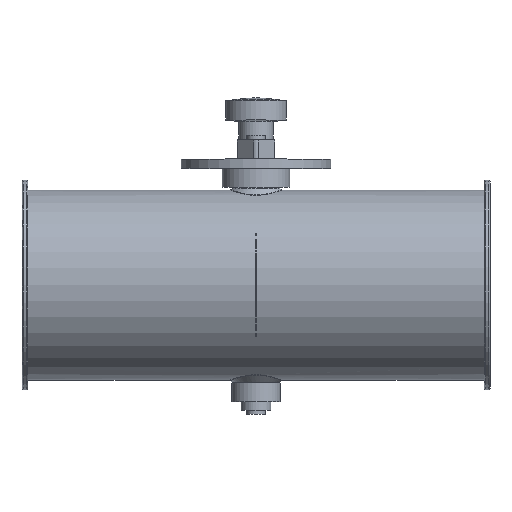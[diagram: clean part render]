
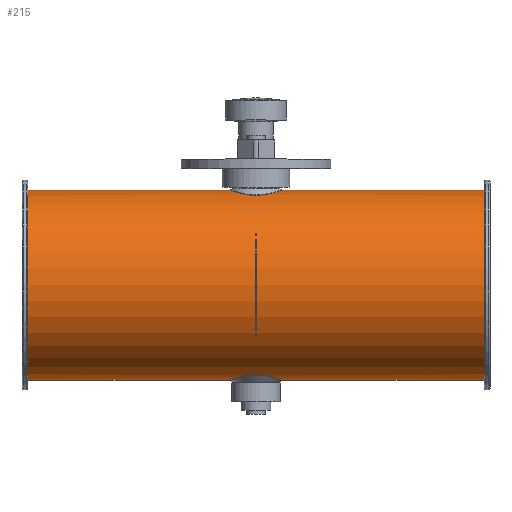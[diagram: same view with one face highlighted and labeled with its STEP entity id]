
A CAD part, top view. The second image highlights one B-rep face of the part: STEP entity #215.
In plain terms, the highlighted cylindrical face has radius 50.8 mm (diameter 101.6 mm), a full revolution.
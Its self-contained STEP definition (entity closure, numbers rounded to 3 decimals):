
#115=B_SPLINE_CURVE_WITH_KNOTS('',3,(#2017,#2018,#2019,#2020,#2021,#2022,
#2023,#2024,#2025,#2026,#2027,#2028,#2029,#2030,#2031,#2032,#2033,#2034,
#2035,#2036,#2037,#2038,#2039,#2040),.UNSPECIFIED.,.T.,.F.,(2,2,2,2,2,2,
2,2,2,2,2,2,2,2),(-0.063,0.,0.063,0.125,0.25,0.375,
0.438,0.5,0.625,0.75,0.875,0.938,1.,1.063),.UNSPECIFIED.);
#116=B_SPLINE_CURVE_WITH_KNOTS('',3,(#2042,#2043,#2044,#2045,#2046,#2047,
#2048,#2049,#2050,#2051,#2052,#2053,#2054,#2055,#2056,#2057,#2058,#2059,
#2060,#2061,#2062,#2063,#2064,#2065,#2066,#2067),.UNSPECIFIED.,.T.,.F.,(2,
2,2,2,2,2,2,2,2,2,2,2,2,2,2),(-0.062,0.,0.063,
0.125,0.25,0.375,0.438,0.5,
0.563,0.625,0.75,0.875,0.938,1.,1.063),.UNSPECIFIED.);
#149=CYLINDRICAL_SURFACE('',#1404,50.8);
#215=ADVANCED_FACE('',(#439,#440,#441,#442),#149,.T.);
#353=CIRCLE('',#1402,50.8);
#354=CIRCLE('',#1403,50.8);
#439=FACE_BOUND('',#615,.T.);
#440=FACE_BOUND('',#616,.T.);
#441=FACE_BOUND('',#617,.T.);
#442=FACE_BOUND('',#618,.T.);
#615=EDGE_LOOP('',(#833));
#616=EDGE_LOOP('',(#834));
#617=EDGE_LOOP('',(#835));
#618=EDGE_LOOP('',(#836));
#833=ORIENTED_EDGE('',*,*,#1191,.T.);
#834=ORIENTED_EDGE('',*,*,#1192,.T.);
#835=ORIENTED_EDGE('',*,*,#1193,.T.);
#836=ORIENTED_EDGE('',*,*,#1194,.F.);
#1069=VERTEX_POINT('',#2016);
#1070=VERTEX_POINT('',#2041);
#1071=VERTEX_POINT('',#2068);
#1072=VERTEX_POINT('',#2070);
#1191=EDGE_CURVE('',#1069,#1069,#353,.T.);
#1192=EDGE_CURVE('',#1070,#1070,#115,.T.);
#1193=EDGE_CURVE('',#1071,#1071,#116,.T.);
#1194=EDGE_CURVE('',#1072,#1072,#354,.T.);
#1402=AXIS2_PLACEMENT_3D('',#2015,#1616,#1617);
#1403=AXIS2_PLACEMENT_3D('',#2069,#1618,#1619);
#1404=AXIS2_PLACEMENT_3D('',#2071,#1620,#1621);
#1616=DIRECTION('',(1.,0.,0.));
#1617=DIRECTION('',(0.,0.,1.));
#1618=DIRECTION('',(1.,0.,0.));
#1619=DIRECTION('',(0.,0.,1.));
#1620=DIRECTION('',(1.,0.,0.));
#1621=DIRECTION('',(0.,0.,-1.));
#2015=CARTESIAN_POINT('',(-122.,-8.3,125.));
#2016=CARTESIAN_POINT('',(-122.,-8.3,175.8));
#2017=CARTESIAN_POINT('',(-0.641,-56.186,108.034));
#2018=CARTESIAN_POINT('',(-4.642,-56.512,108.986));
#2019=CARTESIAN_POINT('',(-6.468,-56.847,109.98));
#2020=CARTESIAN_POINT('',(-9.553,-57.571,112.56));
#2021=CARTESIAN_POINT('',(-10.827,-57.959,114.145));
#2022=CARTESIAN_POINT('',(-13.777,-58.917,119.411));
#2023=CARTESIAN_POINT('',(-14.546,-59.241,123.656));
#2024=CARTESIAN_POINT('',(-13.401,-58.819,131.681));
#2025=CARTESIAN_POINT('',(-11.513,-58.078,135.52));
#2026=CARTESIAN_POINT('',(-7.107,-56.98,139.59));
#2027=CARTESIAN_POINT('',(-5.35,-56.624,140.679));
#2028=CARTESIAN_POINT('',(-1.462,-56.217,141.883));
#2029=CARTESIAN_POINT('',(0.658,-56.187,141.964));
#2030=CARTESIAN_POINT('',(6.633,-56.676,140.537));
#2031=CARTESIAN_POINT('',(9.833,-57.636,137.623));
#2032=CARTESIAN_POINT('',(13.773,-58.916,130.604));
#2033=CARTESIAN_POINT('',(14.545,-59.241,126.368));
#2034=CARTESIAN_POINT('',(13.406,-58.821,118.329));
#2035=CARTESIAN_POINT('',(11.52,-58.081,114.494));
#2036=CARTESIAN_POINT('',(7.126,-56.984,110.424));
#2037=CARTESIAN_POINT('',(5.371,-56.627,109.329));
#2038=CARTESIAN_POINT('',(1.456,-56.216,108.114));
#2039=CARTESIAN_POINT('',(-0.641,-56.186,108.034));
#2040=CARTESIAN_POINT('',(-4.642,-56.512,108.986));
#2041=CARTESIAN_POINT('',(-2.641,-56.349,108.51));
#2042=CARTESIAN_POINT('',(-4.643,39.912,108.986));
#2043=CARTESIAN_POINT('',(-0.639,39.586,108.033));
#2044=CARTESIAN_POINT('',(1.467,39.617,108.117));
#2045=CARTESIAN_POINT('',(5.359,40.025,109.325));
#2046=CARTESIAN_POINT('',(7.129,40.385,110.426));
#2047=CARTESIAN_POINT('',(11.529,41.484,114.504));
#2048=CARTESIAN_POINT('',(13.415,42.224,118.36));
#2049=CARTESIAN_POINT('',(14.542,42.64,126.377));
#2050=CARTESIAN_POINT('',(13.758,42.311,130.637));
#2051=CARTESIAN_POINT('',(10.814,41.355,135.871));
#2052=CARTESIAN_POINT('',(9.527,40.964,137.467));
#2053=CARTESIAN_POINT('',(6.453,40.245,140.028));
#2054=CARTESIAN_POINT('',(4.6,39.908,141.028));
#2055=CARTESIAN_POINT('',(0.649,39.587,141.961));
#2056=CARTESIAN_POINT('',(-1.48,39.617,141.881));
#2057=CARTESIAN_POINT('',(-5.371,40.027,140.669));
#2058=CARTESIAN_POINT('',(-7.124,40.384,139.578));
#2059=CARTESIAN_POINT('',(-11.526,41.483,135.5));
#2060=CARTESIAN_POINT('',(-13.409,42.222,131.678));
#2061=CARTESIAN_POINT('',(-14.548,42.642,123.589));
#2062=CARTESIAN_POINT('',(-13.777,42.317,119.4));
#2063=CARTESIAN_POINT('',(-10.809,41.353,114.119));
#2064=CARTESIAN_POINT('',(-9.548,40.97,112.554));
#2065=CARTESIAN_POINT('',(-6.46,40.246,109.975));
#2066=CARTESIAN_POINT('',(-4.643,39.912,108.986));
#2067=CARTESIAN_POINT('',(-0.639,39.586,108.033));
#2068=CARTESIAN_POINT('',(-2.641,39.749,108.51));
#2069=CARTESIAN_POINT('',(122.,-8.3,125.));
#2070=CARTESIAN_POINT('',(122.,-8.3,175.8));
#2071=CARTESIAN_POINT('',(-125.,-8.3,125.));
